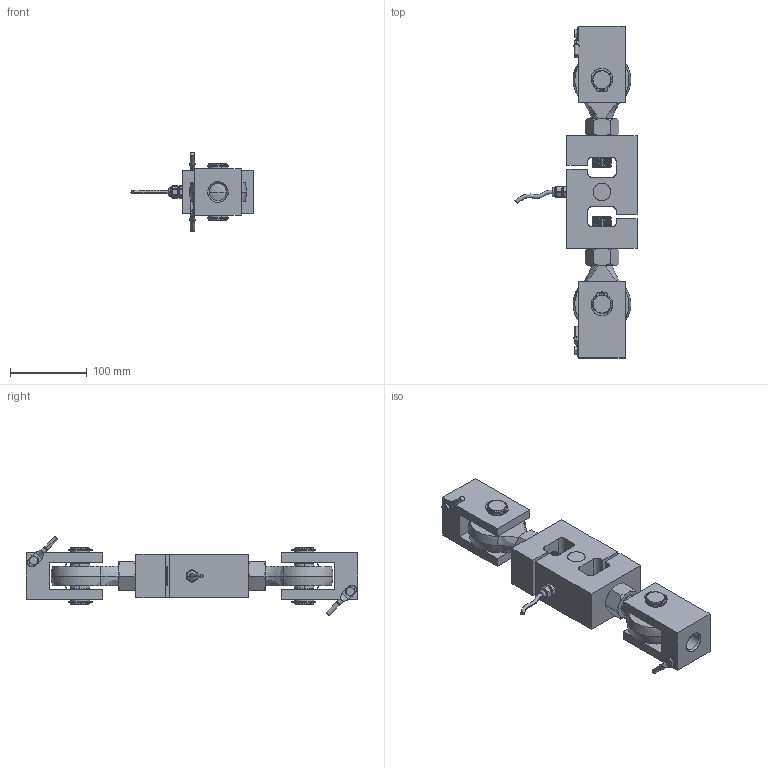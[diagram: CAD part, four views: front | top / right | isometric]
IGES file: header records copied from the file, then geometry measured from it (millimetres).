
Start section: SolidWorks IGES file using analytic representation for surfaces
Global section: file name: C:\Users\nasc01\Desktop\Load_Point_HILPTLB_11KLB\Load_Point_HILPTLB_11KLB_3D\HI LPTLB-11KLB.IGS; native system: SolidWorks 2013; preprocessor: SolidWorks 2013; author: nasc01; date: 141014.151343; units: millimetre
Bounding box: 158.72 x 431.8 x 103.1 mm (x, y, z)
Surface area: 253120.9 mm2 (no closed solid volume)
Topology: 0 solids, 0 shells, 1082 faces, 14604 edges, 14596 vertices
Faces by surface type: revolution 836, bspline 246
